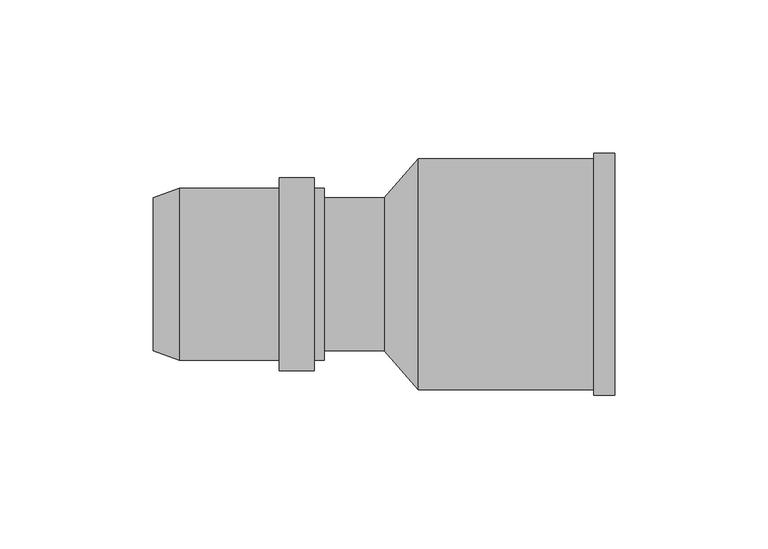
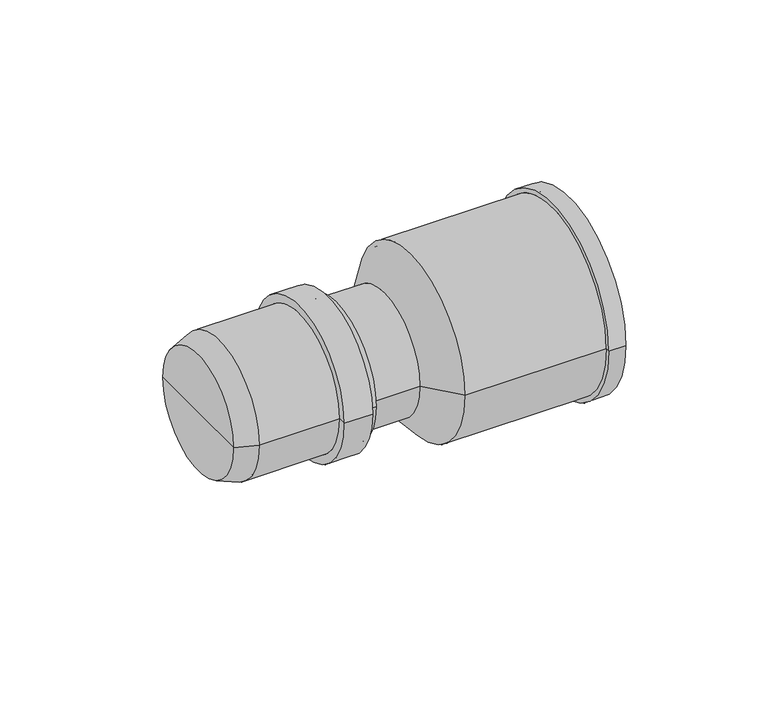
"""IFC4 building model written with IfcOpenShell, lengths in millimetres: pipe fitting geometry, pf_HTUG : pf_HTUG."""

from ifc_helpers import new_model, si_unit, point, frame, origin, origin_2d, place, context, project, spatial, polyline, circle_curve, trimmed, segment, composite_curve, outline, extrude, source, transform, mapped, element, save
from ifc_brep_helpers import plane_surface, cylinder_surface, revolved_surface, advanced_brep


def pipe_fitting_a69c1298(model_context):
    return source(origin(), model_context, "Body", "SolidModel", [
        advanced_brep(
        [(-75.6, -25.0, 0.0), (-75.6, 25.0, 0.0), (-67.1, 28.1, 0.0), (-67.1, -28.1, 0.0), (-75.6, 0.0, 0.0), (-19.6, -28.1, 0.0), (-19.6, 28.1, 0.0), (-19.6, 25.0, 0.0), (-19.6, -25.0, 0.0), (-23.0, -28.1, 0.0), (-23.0, 28.1, 0.0), (-23.0, -31.5, 0.0), (-23.0, 31.5, 0.0), (-34.4, -31.5, 0.0), (-34.4, 31.5, 0.0), (-34.4, -28.1, 0.0), (-34.4, 28.1, 0.0), (-67.1, -25.0, 0.0), (-67.1, 25.0, 0.0), (-67.1, 0.0, 0.0)],
        [
            (0, 1, circle_curve(frame((-75.6, 0.0, 0.0), z_axis=(1.0, 0.0, 0.0), x_axis=(0.0, 1.0, 0.0)), 25.0)),
            (1, 2),
            (2, 3, circle_curve(frame((-67.1, 0.0, 0.0), z_axis=(-1.0, 0.0, 0.0), x_axis=(0.0, 1.0, 0.0)), 28.1)),
            (3, 0),
            (1, 0, circle_curve(frame((-75.6, 0.0, 0.0), z_axis=(1.0, 0.0, 0.0), x_axis=(0.0, 1.0, 0.0)), 25.0)),
            (3, 2, circle_curve(frame((-67.1, 0.0, 0.0), z_axis=(-1.0, 0.0, 0.0), x_axis=(0.0, 1.0, 0.0)), 28.1)),
            (4, 1),
            (0, 4),
            (5, 6, circle_curve(frame((-19.6, 0.0, 0.0), z_axis=(1.0, 0.0, 0.0), x_axis=(0.0, 1.0, 0.0)), 28.1)),
            (6, 7),
            (7, 8, circle_curve(frame((-19.6, 0.0, 0.0), z_axis=(-1.0, 0.0, 0.0), x_axis=(0.0, 1.0, 0.0)), 25.0)),
            (8, 5),
            (6, 5, circle_curve(frame((-19.6, 0.0, 0.0), z_axis=(1.0, 0.0, 0.0), x_axis=(0.0, 1.0, 0.0)), 28.1)),
            (8, 7, circle_curve(frame((-19.6, 0.0, 0.0), z_axis=(-1.0, 0.0, 0.0), x_axis=(0.0, 1.0, 0.0)), 25.0)),
            (9, 10, circle_curve(frame((-23.0, 0.0, 0.0), z_axis=(1.0, 0.0, 0.0), x_axis=(0.0, 1.0, 0.0)), 28.1)),
            (10, 6),
            (5, 9),
            (10, 9, circle_curve(frame((-23.0, 0.0, 0.0), z_axis=(1.0, 0.0, 0.0), x_axis=(0.0, 1.0, 0.0)), 28.1)),
            (11, 12, circle_curve(frame((-23.0, 0.0, 0.0), z_axis=(1.0, 0.0, 0.0), x_axis=(0.0, 1.0, 0.0)), 31.5)),
            (12, 10),
            (9, 11),
            (12, 11, circle_curve(frame((-23.0, 0.0, 0.0), z_axis=(1.0, 0.0, 0.0), x_axis=(0.0, 1.0, 0.0)), 31.5)),
            (13, 14, circle_curve(frame((-34.4, 0.0, 0.0), z_axis=(1.0, 0.0, 0.0), x_axis=(0.0, 1.0, 0.0)), 31.5)),
            (14, 12),
            (11, 13),
            (14, 13, circle_curve(frame((-34.4, 0.0, 0.0), z_axis=(1.0, 0.0, 0.0), x_axis=(0.0, 1.0, 0.0)), 31.5)),
            (15, 16, circle_curve(frame((-34.4, 0.0, 0.0), z_axis=(1.0, 0.0, 0.0), x_axis=(0.0, 1.0, 0.0)), 28.1)),
            (16, 14),
            (13, 15),
            (16, 15, circle_curve(frame((-34.4, 0.0, 0.0), z_axis=(1.0, 0.0, 0.0), x_axis=(0.0, 1.0, 0.0)), 28.1)),
            (2, 16),
            (15, 3),
            (17, 18, circle_curve(frame((-67.1, 0.0, 0.0), z_axis=(1.0, 0.0, 0.0), x_axis=(0.0, 1.0, 0.0)), 25.0)),
            (18, 19),
            (19, 17),
            (18, 17, circle_curve(frame((-67.1, 0.0, 0.0), z_axis=(1.0, 0.0, 0.0), x_axis=(0.0, 1.0, 0.0)), 25.0)),
            (7, 18),
            (17, 8),
        ],
        [
            revolved_surface(polyline([(-67.1, 28.1, 0.0), (-75.6, 25.0, 0.0)]), (-75.6, 0.0, 0.0), (-1.0, 0.0, 0.0)),
            plane_surface(frame((-75.6, 0.0, 0.0), z_axis=(-1.0, 0.0, 0.0), x_axis=(0.0, 1.0, 0.0))),
            plane_surface(frame((-19.6, 0.0, 0.0), z_axis=(1.0, 0.0, 0.0), x_axis=(0.0, 1.0, 0.0))),
            cylinder_surface(frame((-75.6, 0.0, 0.0), z_axis=(-1.0, 0.0, 0.0), x_axis=(0.0, 1.0, 0.0)), 28.1),
            plane_surface(frame((-23.0, 0.0, 0.0), z_axis=(1.0, 0.0, 0.0), x_axis=(0.0, 1.0, 0.0))),
            cylinder_surface(frame((-75.6, 0.0, 0.0), z_axis=(-1.0, 0.0, 0.0), x_axis=(0.0, 1.0, 0.0)), 31.5),
            plane_surface(frame((-34.4, 0.0, 0.0), z_axis=(-1.0, 0.0, 0.0), x_axis=(0.0, 1.0, 0.0))),
            plane_surface(frame((-67.1, 0.0, 0.0), z_axis=(1.0, 0.0, 0.0), x_axis=(0.0, 1.0, 0.0))),
            revolved_surface(polyline([(-67.1, 25.0, 0.0), (-19.6, 25.0, 0.0)]), (-75.6, 0.0, 0.0), (-1.0, 0.0, 0.0)),
        ],
        [
            (0, [[1, 2, 3, 4]]),
            (0, [[5, -4, 6, -2]]),
            (1, [[7, -1, 8]]),
            (1, [[-8, -5, -7]]),
            (2, [[9, 10, 11, 12]]),
            (2, [[13, -12, 14, -10]]),
            (3, [[15, 16, -9, 17]]),
            (3, [[18, -17, -13, -16]]),
            (4, [[19, 20, -15, 21]]),
            (4, [[22, -21, -18, -20]]),
            (5, [[23, 24, -19, 25]]),
            (5, [[26, -25, -22, -24]]),
            (6, [[27, 28, -23, 29]]),
            (6, [[30, -29, -26, -28]]),
            (3, [[-3, 31, -27, 32]]),
            (3, [[-6, -32, -30, -31]]),
            (7, [[33, 34, 35]]),
            (7, [[36, -35, -34]]),
            (8, [[-11, 37, -33, 38]]),
            (8, [[-14, -38, -36, -37]]),
        ],
    ),
        extrude(outline(composite_curve([segment(trimmed(circle_curve(origin_2d(), 25.0), [point((-25.0, 0.0))], [point((25.0, 0.0))], False, "CARTESIAN"), True, "CONTINUOUS"), segment(trimmed(circle_curve(origin_2d(), 25.0), [point((25.0, 0.0))], [point((-25.0, 0.0))], False, "CARTESIAN"), True, "CONTINUOUS")], self_intersect=False)), frame((-19.6, 0.0, 0.0), z_axis=(1.0, 0.0, 0.0), x_axis=(0.0, 1.0, 0.0)), (0.0, 0.0, 1.0), 19.6),
        advanced_brep(
        [(75.3, -36.0, 0.0), (75.3, 36.0, 0.0), (11.0, 36.0, 0.0), (11.0, -36.0, 0.0), (75.3, -39.6, 0.0), (75.3, 39.6, 0.0), (11.0, -37.8, 0.0), (11.0, 37.8, 0.0), (68.3184027, 37.8, 0.0), (68.3184027, -37.8, 0.0), (0.0, -25.0, 0.0), (0.0, 25.0, 0.0), (0.0, 0.0, 0.0), (68.3184027, 39.6, 0.0), (68.3184027, -39.6, 0.0), (11.0, 0.0, 0.0)],
        [
            (0, 1, circle_curve(frame((75.3, 0.0, 0.0), z_axis=(1.0, 0.0, 0.0), x_axis=(0.0, 1.0, 0.0)), 36.0)),
            (1, 2),
            (2, 3, circle_curve(frame((11.0, 0.0, 0.0), z_axis=(-1.0, 0.0, 0.0), x_axis=(0.0, 1.0, 0.0)), 36.0)),
            (3, 0),
            (4, 5, circle_curve(frame((75.3, 0.0, 0.0), z_axis=(1.0, 0.0, 0.0), x_axis=(0.0, 1.0, 0.0)), 39.6)),
            (5, 1),
            (0, 4),
            (6, 7, circle_curve(frame((11.0, 0.0, 0.0), z_axis=(1.0, 0.0, 0.0), x_axis=(0.0, 1.0, 0.0)), 37.8)),
            (7, 8),
            (8, 9, circle_curve(frame((68.3184027, 0.0, 0.0), z_axis=(-1.0, 0.0, 0.0), x_axis=(0.0, 1.0, 0.0)), 37.8)),
            (9, 6),
            (10, 11, circle_curve(frame((0.0, 0.0, 0.0), z_axis=(1.0, 0.0, 0.0), x_axis=(0.0, 1.0, 0.0)), 25.0)),
            (11, 7),
            (6, 10),
            (12, 11),
            (10, 12),
            (8, 13),
            (13, 14, circle_curve(frame((68.3184027, 0.0, 0.0), z_axis=(-1.0, 0.0, 0.0), x_axis=(0.0, 1.0, 0.0)), 39.6)),
            (14, 9),
            (1, 0, circle_curve(frame((75.3, 0.0, 0.0), z_axis=(1.0, 0.0, 0.0), x_axis=(0.0, 1.0, 0.0)), 36.0)),
            (3, 2, circle_curve(frame((11.0, 0.0, 0.0), z_axis=(-1.0, 0.0, 0.0), x_axis=(0.0, 1.0, 0.0)), 36.0)),
            (5, 4, circle_curve(frame((75.3, 0.0, 0.0), z_axis=(1.0, 0.0, 0.0), x_axis=(0.0, 1.0, 0.0)), 39.6)),
            (13, 5),
            (4, 14),
            (13, 14, circle_curve(frame((68.3184027, 0.0, 0.0), z_axis=(1.0, 0.0, 0.0), x_axis=(0.0, 1.0, 0.0)), 39.6)),
            (8, 9, circle_curve(frame((68.3184027, 0.0, 0.0), z_axis=(1.0, 0.0, 0.0), x_axis=(0.0, 1.0, 0.0)), 37.8)),
            (7, 6, circle_curve(frame((11.0, 0.0, 0.0), z_axis=(1.0, 0.0, 0.0), x_axis=(0.0, 1.0, 0.0)), 37.8)),
            (11, 10, circle_curve(frame((0.0, 0.0, 0.0), z_axis=(1.0, 0.0, 0.0), x_axis=(0.0, 1.0, 0.0)), 25.0)),
            (2, 15),
            (15, 3),
        ],
        [
            revolved_surface(polyline([(11.0, 36.0, 0.0), (75.3, 36.0, 0.0)]), (81.3, 0.0, 0.0), (-1.0, 0.0, 0.0)),
            plane_surface(frame((75.3, 0.0, 0.0), z_axis=(1.0, 0.0, 0.0), x_axis=(0.0, 1.0, 0.0))),
            cylinder_surface(frame((81.3, 0.0, 0.0), z_axis=(-1.0, 0.0, 0.0), x_axis=(0.0, 1.0, 0.0)), 37.8),
            revolved_surface(polyline([(11.0, 37.8, 0.0), (0.0, 25.0, 0.0)]), (81.3, 0.0, 0.0), (-1.0, 0.0, 0.0)),
            plane_surface(frame((0.0, 0.0, 0.0), z_axis=(-1.0, 0.0, 0.0), x_axis=(0.0, 1.0, 0.0))),
            plane_surface(frame((68.3184027, 0.0, 0.0), z_axis=(-1.0, 0.0, 0.0), x_axis=(0.0, 1.0, 0.0))),
            cylinder_surface(frame((81.3, 0.0, 0.0), z_axis=(-1.0, 0.0, 0.0), x_axis=(0.0, 1.0, 0.0)), 39.6),
            plane_surface(frame((11.0, 0.0, 0.0), z_axis=(1.0, 0.0, 0.0), x_axis=(0.0, 1.0, 0.0))),
        ],
        [
            (0, [[1, 2, 3, 4]]),
            (1, [[5, 6, -1, 7]]),
            (2, [[8, 9, 10, 11]]),
            (3, [[12, 13, -8, 14]]),
            (4, [[15, -12, 16]]),
            (5, [[-10, 17, 18, 19]]),
            (0, [[20, -4, 21, -2]]),
            (1, [[22, -7, -20, -6]]),
            (6, [[-18, 23, -5, 24]]),
            (6, [[25, -24, -22, -23]]),
            (5, [[26, -19, -25, -17]]),
            (2, [[27, -11, -26, -9]]),
            (3, [[28, -14, -27, -13]]),
            (4, [[-16, -28, -15]]),
            (7, [[-3, 29, 30]]),
            (7, [[-21, -30, -29]]),
        ],
    ),
    ])


if __name__ == "__main__":
    model = new_model("IFC4")
    model_context = context("Model", 3, world=origin())
    ifc_project = project(units=[si_unit("LENGTHUNIT", "METRE", prefix="MILLI")], contexts=[model_context])
    site = spatial("IfcSite", under=ifc_project)
    building = spatial("IfcBuilding", under=site)
    placement = place(None, origin())
    pipe_fitting_shape = pipe_fitting_a69c1298(model_context)
    element("IfcPipeFitting", 1, ObjectType="pf_HTUG : pf_HTUG", at=placement, inside=building, context=model_context, shape_type="MappedRepresentation", body=[
        mapped(pipe_fitting_shape, transform((0.0, 0.0, 0.0), x_axis=(1.0, 0.0, 0.0), y_axis=(0.0, 1.0, 0.0), z_axis=(0.0, 0.0, 1.0))),
    ])
    save(model, "model.ifc")
